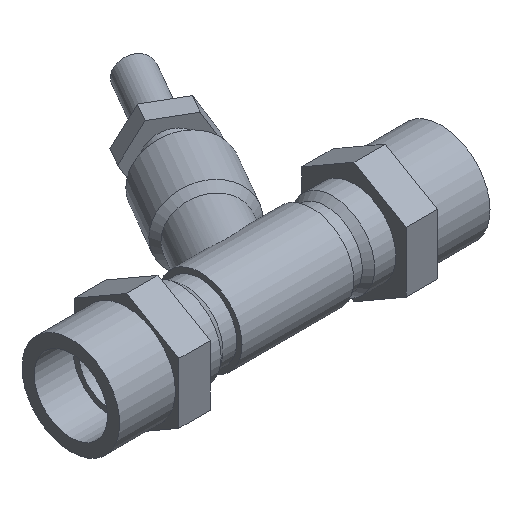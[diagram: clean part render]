
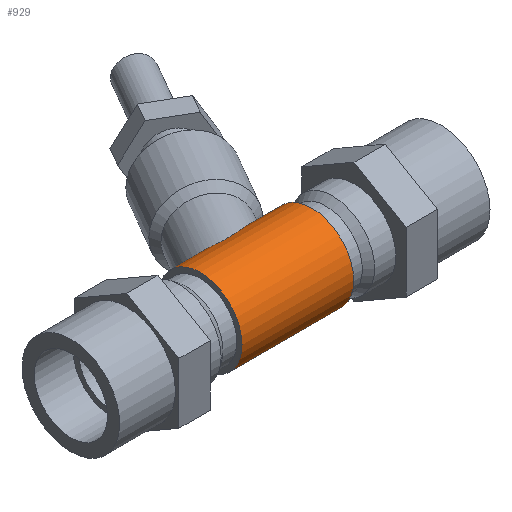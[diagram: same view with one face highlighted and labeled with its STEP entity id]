
A CAD part, isometric view. The second image highlights one B-rep face of the part: STEP entity #929.
In plain terms, the highlighted cylindrical face has radius 15.24 mm (diameter 30.48 mm), a full revolution.
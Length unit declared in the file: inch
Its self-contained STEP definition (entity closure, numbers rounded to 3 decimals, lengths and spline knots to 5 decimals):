
#48=B_SPLINE_CURVE_WITH_KNOTS('',3,(#1435,#1436,#1437,#1438,#1439,#1440,
#1441,#1442,#1443,#1444,#1445,#1446,#1447,#1448,#1449,#1450,#1451,#1452,
#1453,#1454,#1455,#1456,#1457,#1458,#1459,#1460,#1461,#1462,#1463,#1464,
#1465,#1466,#1467,#1468,#1469,#1470,#1471,#1472,#1473,#1474,#1475,#1476,
#1477,#1478),.UNSPECIFIED.,.F.,.F.,(4,2,2,2,2,2,2,2,2,2,2,2,2,2,2,2,2,2,
2,2,2,4),(0.,0.2408,0.48161,0.72241,0.96322,
1.46658,1.71826,1.96994,2.22163,2.47331,
2.97667,3.21747,3.45828,3.69908,3.93989,
4.26132,4.58276,5.22563,5.57483,5.92403,
6.15565,6.38727),.UNSPECIFIED.);
#49=B_SPLINE_CURVE_WITH_KNOTS('',3,(#1479,#1480,#1481,#1482,#1483,#1484,
#1485,#1486,#1487,#1488,#1489,#1490,#1491,#1492,#1493,#1494),
 .UNSPECIFIED.,.F.,.F.,(4,2,2,2,2,2,2,4),(6.38727,6.61889,
6.8505,7.1997,7.5489,8.19178,8.51321,
8.83465),.UNSPECIFIED.);
#54=CYLINDRICAL_SURFACE('',#1016,0.6);
#69=FACE_BOUND('',#198,.T.);
#90=CIRCLE('',#1009,0.6);
#91=CIRCLE('',#1010,0.6);
#93=CIRCLE('',#1013,0.6);
#94=CIRCLE('',#1014,0.6);
#143=FACE_OUTER_BOUND('',#197,.T.);
#197=EDGE_LOOP('',(#665,#666,#667,#668,#669,#670));
#198=EDGE_LOOP('',(#671,#672));
#261=LINE('',#1536,#332);
#332=VECTOR('',#1188,0.6);
#396=VERTEX_POINT('',#1432);
#397=VERTEX_POINT('',#1434);
#406=VERTEX_POINT('',#1522);
#407=VERTEX_POINT('',#1523);
#409=VERTEX_POINT('',#1529);
#410=VERTEX_POINT('',#1530);
#489=EDGE_CURVE('',#397,#396,#48,.T.);
#490=EDGE_CURVE('',#396,#397,#49,.T.);
#503=EDGE_CURVE('',#406,#407,#90,.T.);
#504=EDGE_CURVE('',#407,#406,#91,.T.);
#506=EDGE_CURVE('',#409,#410,#93,.T.);
#507=EDGE_CURVE('',#410,#409,#94,.T.);
#509=EDGE_CURVE('',#407,#410,#261,.T.);
#665=ORIENTED_EDGE('',*,*,#503,.F.);
#666=ORIENTED_EDGE('',*,*,#504,.F.);
#667=ORIENTED_EDGE('',*,*,#509,.T.);
#668=ORIENTED_EDGE('',*,*,#507,.T.);
#669=ORIENTED_EDGE('',*,*,#506,.T.);
#670=ORIENTED_EDGE('',*,*,#509,.F.);
#671=ORIENTED_EDGE('',*,*,#489,.T.);
#672=ORIENTED_EDGE('',*,*,#490,.T.);
#929=ADVANCED_FACE('',(#143,#69),#54,.T.);
#1009=AXIS2_PLACEMENT_3D('',#1524,#1172,#1173);
#1010=AXIS2_PLACEMENT_3D('',#1525,#1174,#1175);
#1013=AXIS2_PLACEMENT_3D('',#1531,#1180,#1181);
#1014=AXIS2_PLACEMENT_3D('',#1532,#1182,#1183);
#1016=AXIS2_PLACEMENT_3D('',#1535,#1186,#1187);
#1172=DIRECTION('center_axis',(1.,0.,0.));
#1173=DIRECTION('ref_axis',(0.,0.,-1.));
#1174=DIRECTION('center_axis',(1.,0.,0.));
#1175=DIRECTION('ref_axis',(0.,0.,-1.));
#1180=DIRECTION('center_axis',(1.,0.,0.));
#1181=DIRECTION('ref_axis',(0.,0.,-1.));
#1182=DIRECTION('center_axis',(1.,0.,0.));
#1183=DIRECTION('ref_axis',(0.,0.,-1.));
#1186=DIRECTION('center_axis',(1.,0.,0.));
#1187=DIRECTION('ref_axis',(0.,1.,0.));
#1188=DIRECTION('',(-1.,0.,0.));
#1432=CARTESIAN_POINT('',(0.67376,0.6,0.));
#1434=CARTESIAN_POINT('',(-0.05851,0.33166,0.5));
#1435=CARTESIAN_POINT('Ctrl Pts',(-0.05851,0.33166,
0.5));
#1436=CARTESIAN_POINT('Ctrl Pts',(-0.09012,0.33166,
0.5));
#1437=CARTESIAN_POINT('Ctrl Pts',(-0.12216,0.33522,
0.49771));
#1438=CARTESIAN_POINT('Ctrl Pts',(-0.18344,0.3507,
0.48693));
#1439=CARTESIAN_POINT('Ctrl Pts',(-0.21268,0.36261,
0.47839));
#1440=CARTESIAN_POINT('Ctrl Pts',(-0.26609,0.39147,
0.45508));
#1441=CARTESIAN_POINT('Ctrl Pts',(-0.29049,0.4084,
0.44024));
#1442=CARTESIAN_POINT('Ctrl Pts',(-0.33423,0.44298,
0.40543));
#1443=CARTESIAN_POINT('Ctrl Pts',(-0.35357,0.4606,
0.38545));
#1444=CARTESIAN_POINT('Ctrl Pts',(-0.40533,0.51086,
0.31963));
#1445=CARTESIAN_POINT('Ctrl Pts',(-0.43388,0.54366,0.26259));
#1446=CARTESIAN_POINT('Ctrl Pts',(-0.46224,0.57712,
0.16752));
#1447=CARTESIAN_POINT('Ctrl Pts',(-0.46936,0.58578,
0.13427));
#1448=CARTESIAN_POINT('Ctrl Pts',(-0.47871,0.59722,
0.06702));
#1449=CARTESIAN_POINT('Ctrl Pts',(-0.48094,0.6,0.03303));
#1450=CARTESIAN_POINT('Ctrl Pts',(-0.48094,0.6,-0.03303));
#1451=CARTESIAN_POINT('Ctrl Pts',(-0.47871,0.59722,
-0.06702));
#1452=CARTESIAN_POINT('Ctrl Pts',(-0.46936,0.58578,
-0.13427));
#1453=CARTESIAN_POINT('Ctrl Pts',(-0.46224,0.57712,
-0.16752));
#1454=CARTESIAN_POINT('Ctrl Pts',(-0.43388,0.54366,-0.26259));
#1455=CARTESIAN_POINT('Ctrl Pts',(-0.40533,0.51086,
-0.31963));
#1456=CARTESIAN_POINT('Ctrl Pts',(-0.35357,0.4606,
-0.38545));
#1457=CARTESIAN_POINT('Ctrl Pts',(-0.33423,0.44298,
-0.40543));
#1458=CARTESIAN_POINT('Ctrl Pts',(-0.29049,0.4084,
-0.44024));
#1459=CARTESIAN_POINT('Ctrl Pts',(-0.26609,0.39147,
-0.45508));
#1460=CARTESIAN_POINT('Ctrl Pts',(-0.21268,0.36261,
-0.47839));
#1461=CARTESIAN_POINT('Ctrl Pts',(-0.18344,0.3507,
-0.48693));
#1462=CARTESIAN_POINT('Ctrl Pts',(-0.12216,0.33522,
-0.49771));
#1463=CARTESIAN_POINT('Ctrl Pts',(-0.09012,0.33166,
-0.5));
#1464=CARTESIAN_POINT('Ctrl Pts',(-0.01633,0.33166,
-0.5));
#1465=CARTESIAN_POINT('Ctrl Pts',(0.02597,0.33764,
-0.49611));
#1466=CARTESIAN_POINT('Ctrl Pts',(0.11014,0.35632,-0.48288));
#1467=CARTESIAN_POINT('Ctrl Pts',(0.15201,0.36902,-0.47346));
#1468=CARTESIAN_POINT('Ctrl Pts',(0.27507,0.41172,-0.43801));
#1469=CARTESIAN_POINT('Ctrl Pts',(0.3536,0.44603,-0.40453));
#1470=CARTESIAN_POINT('Ctrl Pts',(0.45754,0.49361,-0.34221));
#1471=CARTESIAN_POINT('Ctrl Pts',(0.49588,0.51181,-0.31515));
#1472=CARTESIAN_POINT('Ctrl Pts',(0.56531,0.54551,-0.25236));
#1473=CARTESIAN_POINT('Ctrl Pts',(0.59635,0.56095,-0.21652));
#1474=CARTESIAN_POINT('Ctrl Pts',(0.6353,0.58049,-0.15399));
#1475=CARTESIAN_POINT('Ctrl Pts',(0.64959,0.58772,-0.12476));
#1476=CARTESIAN_POINT('Ctrl Pts',(0.66887,0.5975,-0.06299));
#1477=CARTESIAN_POINT('Ctrl Pts',(0.67376,0.6,-0.0304));
#1478=CARTESIAN_POINT('Ctrl Pts',(0.67376,0.6,0.));
#1479=CARTESIAN_POINT('Ctrl Pts',(0.67376,0.6,0.));
#1480=CARTESIAN_POINT('Ctrl Pts',(0.67376,0.6,0.0304));
#1481=CARTESIAN_POINT('Ctrl Pts',(0.66887,0.5975,0.06299));
#1482=CARTESIAN_POINT('Ctrl Pts',(0.64959,0.58772,0.12476));
#1483=CARTESIAN_POINT('Ctrl Pts',(0.6353,0.58049,0.15399));
#1484=CARTESIAN_POINT('Ctrl Pts',(0.59635,0.56095,0.21652));
#1485=CARTESIAN_POINT('Ctrl Pts',(0.56531,0.54551,0.25236));
#1486=CARTESIAN_POINT('Ctrl Pts',(0.49588,0.51181,0.31515));
#1487=CARTESIAN_POINT('Ctrl Pts',(0.45754,0.49361,0.34221));
#1488=CARTESIAN_POINT('Ctrl Pts',(0.3536,0.44603,0.40453));
#1489=CARTESIAN_POINT('Ctrl Pts',(0.27507,0.41172,0.43801));
#1490=CARTESIAN_POINT('Ctrl Pts',(0.15201,0.36902,0.47346));
#1491=CARTESIAN_POINT('Ctrl Pts',(0.11014,0.35632,0.48288));
#1492=CARTESIAN_POINT('Ctrl Pts',(0.02597,0.33764,
0.49611));
#1493=CARTESIAN_POINT('Ctrl Pts',(-0.01633,0.33166,
0.5));
#1494=CARTESIAN_POINT('Ctrl Pts',(-0.05851,0.33166,
0.5));
#1522=CARTESIAN_POINT('',(0.8,0.6,0.));
#1523=CARTESIAN_POINT('',(0.8,-0.6,0.));
#1524=CARTESIAN_POINT('Origin',(0.8,0.,0.));
#1525=CARTESIAN_POINT('Origin',(0.8,0.,0.));
#1529=CARTESIAN_POINT('',(-0.8,0.6,0.));
#1530=CARTESIAN_POINT('',(-0.8,-0.6,0.));
#1531=CARTESIAN_POINT('Origin',(-0.8,0.,0.));
#1532=CARTESIAN_POINT('Origin',(-0.8,0.,0.));
#1535=CARTESIAN_POINT('Origin',(0.,0.,0.));
#1536=CARTESIAN_POINT('',(0.,-0.6,0.));
